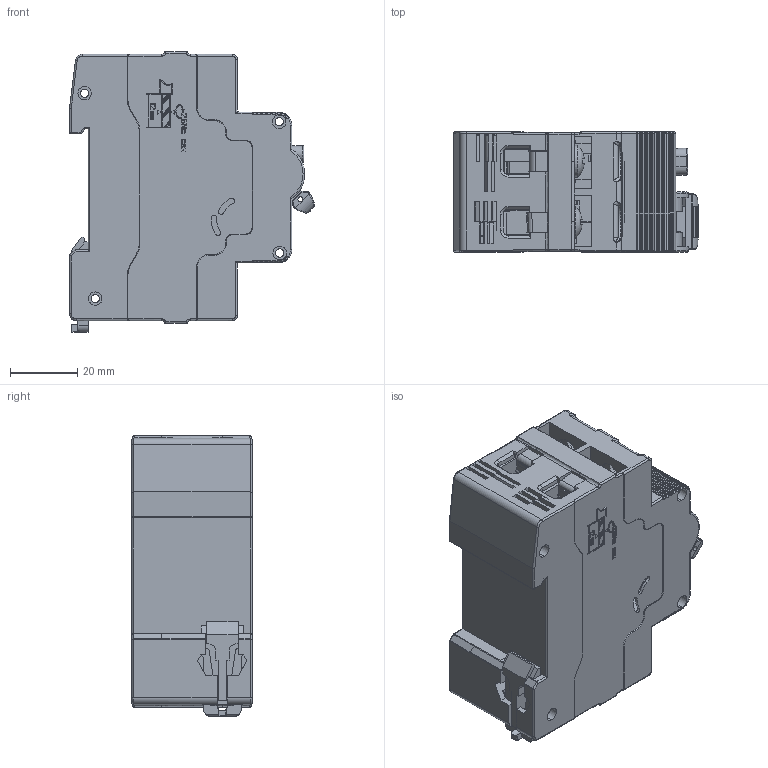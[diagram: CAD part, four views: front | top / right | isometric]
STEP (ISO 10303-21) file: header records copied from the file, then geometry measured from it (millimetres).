
FILE_DESCRIPTION (( 'STEP AP214' ), '1' );
FILE_NAME ('TGB1NL-40(1).stp.STEP', '2026-04-30T08:56:13', ( '' ), ( '' ), 'SwSTEP 2.0', 'SolidWorks 2024', '' );
FILE_SCHEMA (( 'AUTOMOTIVE_DESIGN' ));
Length unit declared in the file: millimetre
Products named in the file (1): TGB1NL-40(1).stp
Bounding box: 72.99 x 35.8 x 83.7 mm (x, y, z)
Volume: 46646.7 mm3; surface area: 69440.3 mm2
Topology: 1 solids, 1 shells, 4613 faces, 12602 edges, 7887 vertices
Faces by surface type: plane 2946, cylinder 1079, sphere 167, bspline 162, torus 138, cone 121
Entity records: 159403 total; most frequent: CARTESIAN_POINT 44745, ORIENTED_EDGE 25050, DIRECTION 22288, EDGE_CURVE 12525, LINE 8916, VECTOR 8916, VERTEX_POINT 7881, AXIS2_PLACEMENT_3D 6686
